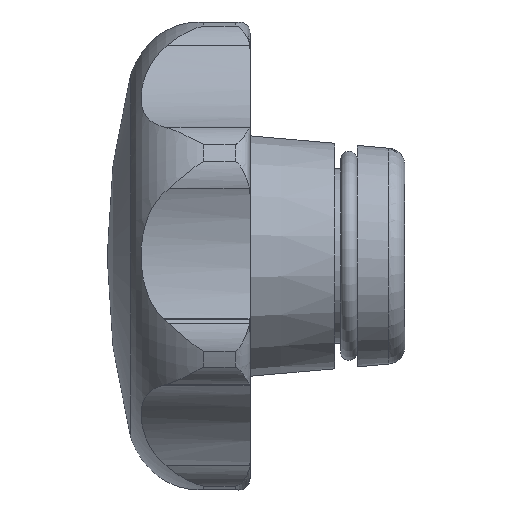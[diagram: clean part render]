
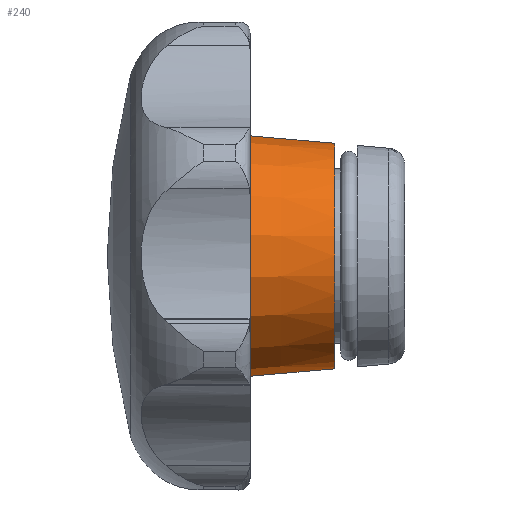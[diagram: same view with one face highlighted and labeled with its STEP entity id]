
A CAD part, left-side view. The second image highlights one B-rep face of the part: STEP entity #240.
In plain terms, the highlighted conical face has half-angle 5 degrees and reference radius 10.661 mm.
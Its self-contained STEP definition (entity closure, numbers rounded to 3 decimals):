
#240 = ADVANCED_FACE( '', ( #523, #524 ), #525, .T. );
#523 = FACE_BOUND( '', #954, .T. );
#524 = FACE_OUTER_BOUND( '', #955, .T. );
#525 = CONICAL_SURFACE( '', #956, 10.661, 0.087 );
#954 = EDGE_LOOP( '', ( #1794 ) );
#955 = EDGE_LOOP( '', ( #1795 ) );
#956 = AXIS2_PLACEMENT_3D( '', #1796, #1797, #1798 );
#1794 = ORIENTED_EDGE( '', *, *, #3007, .F. );
#1795 = ORIENTED_EDGE( '', *, *, #3008, .T. );
#1796 = CARTESIAN_POINT( '', ( 0., 19.465, 0. ) );
#1797 = DIRECTION( '', ( 0., 1., 0. ) );
#1798 = DIRECTION( '', ( 0., 0., 1. ) );
#3007 = EDGE_CURVE( '', #3721, #3721, #3722, .T. );
#3008 = EDGE_CURVE( '', #3723, #3723, #3724, .T. );
#3721 = VERTEX_POINT( '', #5528 );
#3722 = CIRCLE( '', #5529, 9.474 );
#3723 = VERTEX_POINT( '', #5530 );
#3724 = CIRCLE( '', #5531, 10.661 );
#5528 = CARTESIAN_POINT( '', ( 0., 5.9, -9.474 ) );
#5529 = AXIS2_PLACEMENT_3D( '', #6331, #6332, #6333 );
#5530 = CARTESIAN_POINT( '', ( 0., 19.465, -10.661 ) );
#5531 = AXIS2_PLACEMENT_3D( '', #6334, #6335, #6336 );
#6331 = CARTESIAN_POINT( '', ( 0., 5.9, 0. ) );
#6332 = DIRECTION( '', ( 0., -1., 0. ) );
#6333 = DIRECTION( '', ( 0., 0., -1. ) );
#6334 = CARTESIAN_POINT( '', ( 0., 19.465, 0. ) );
#6335 = DIRECTION( '', ( 0., -1., 0. ) );
#6336 = DIRECTION( '', ( 0., 0., -1. ) );
